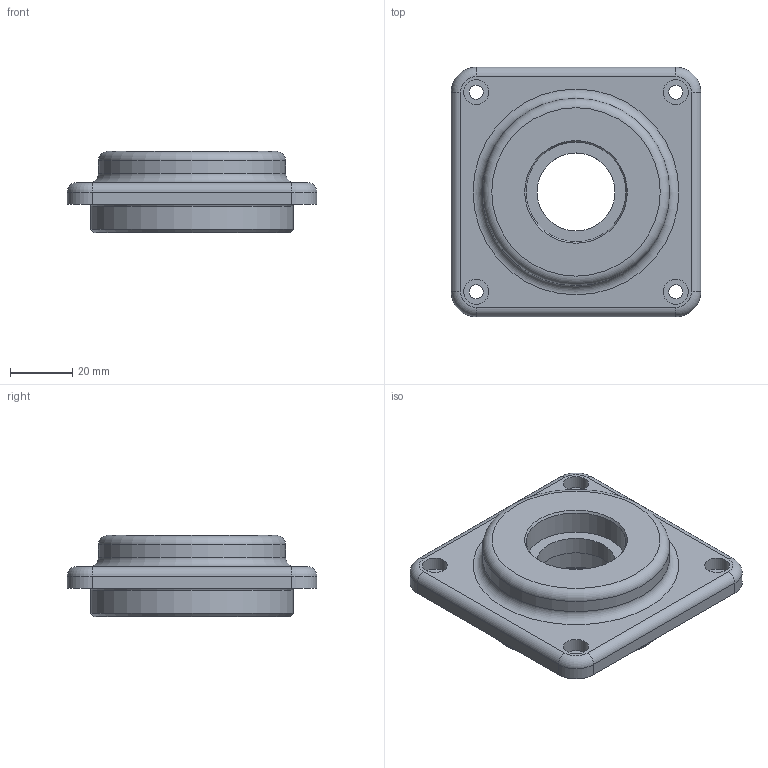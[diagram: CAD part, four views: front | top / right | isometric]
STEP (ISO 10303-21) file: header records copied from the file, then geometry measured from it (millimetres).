
FILE_DESCRIPTION(/* description */ (''),/* implementation_level */ '2;1');
FILE_NAME(/* name */ '',/* time_stamp */ '2024-08-02T13:13:54+09:00',/* author */ ('jhkim'),/* organization */ (''),/* preprocessor_version */ 'ST-DEVELOPER v20',/* originating_system */ 'Autodesk Inventor 2025',/* authorisation */ '');
FILE_SCHEMA (('AUTOMOTIVE_DESIGN { 1 0 10303 214 3 1 1 }'));
Length unit declared in the file: millimetre
Products named in the file (1): 서브커버
Bounding box: 80 x 80 x 26 mm (x, y, z)
Volume: 76214.2 mm3; surface area: 19656.9 mm2
Topology: 1 solids, 1 shells, 46 faces, 97 edges, 61 vertices
Faces by surface type: cylinder 21, plane 14, torus 8, cone 3
Full cylindrical faces by diameter (mm): 4.5 x4, 8 x4, 25 x1, 32 x1, 40 x1, 60 x1, 65 x1
Entity records: 1317 total; most frequent: DIRECTION 252, CARTESIAN_POINT 205, ORIENTED_EDGE 194, AXIS2_PLACEMENT_3D 108, EDGE_CURVE 97, EDGE_LOOP 64, CIRCLE 61, VERTEX_POINT 61
